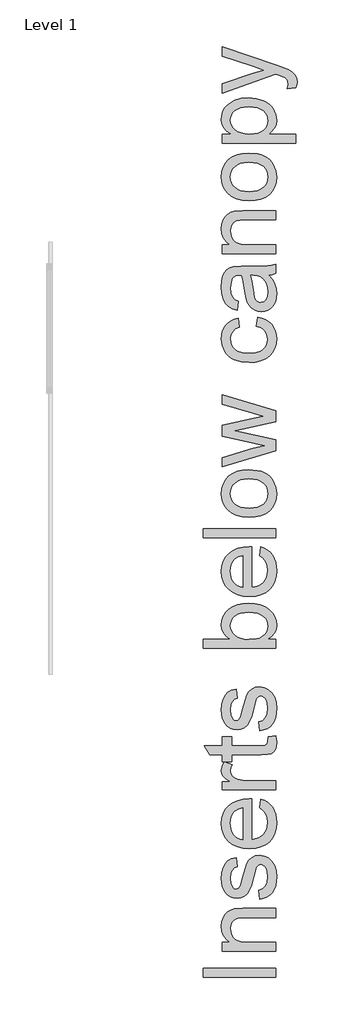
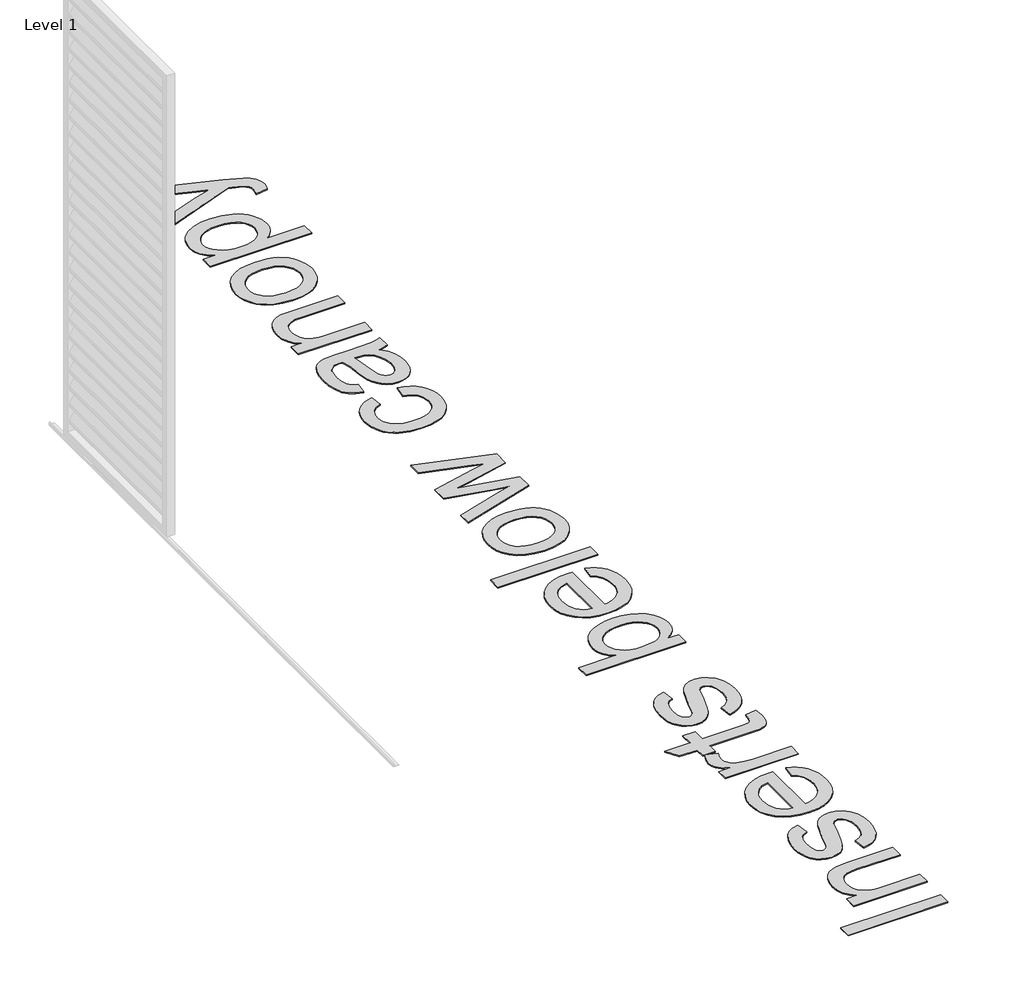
# One storey, part 30 of 80: 1 proxy.
"""IFC4 building model written with IfcOpenShell, lengths in millimetres."""

from ifc_helpers import new_model, si_unit, origin, origin_with_axes, place, context, project, spatial, polyline, outline, extrude, element, save

model = new_model("IFC4")

# Units and contexts
model_context = context("Model", 3, world=origin())
ifc_project = project(units=[si_unit("LENGTHUNIT", "METRE", prefix="MILLI")], contexts=[model_context])

# Site, building, storey
site = spatial("IfcSite", under=ifc_project)
building = spatial("IfcBuilding", under=site)
storey = spatial("IfcBuildingStorey", under=building, Name="Level 1", Elevation=0.0)

# Proxy
placement = place(None, origin())
element("IfcBuildingElementProxy", 1, Name="500mm Arial", ObjectType="500mm Arial", at=placement, inside=storey, context=model_context, shape_type="SweptSolid", body=[
    extrude(outline(polyline([(436600.5945715, -43163.3057532), (436098.3130208, -43163.3057532), (436098.3130208, -43100.5205594), (436600.5945715, -43100.5205594), (436600.5945715, -43163.3057532)])), origin_with_axes(), (0.0, 0.0, 1.0), 5.0),
    extrude(outline(polyline([(436600.5945715, -42982.7983209), (436231.7315577, -42982.7983209), (436231.7315577, -42920.0131271), (436283.235037, -42920.0131271), (436257.2686995, -42898.2007904), (436238.7213156, -42872.0045267), (436227.5928852, -42841.4243358), (436223.8834085, -42806.4602179), (436226.8724497, -42775.512145), (436235.8395733, -42747.169903), (436249.665805, -42723.5334848), (436267.2321702, -42706.7028835), (436288.4926839, -42695.2832133), (436313.4013606, -42687.8795881), (436374.1018898, -42684.5686501), (436600.5945715, -42684.5686501), (436600.5945715, -42747.353844), (436382.5631757, -42747.353844), (436350.0975896, -42749.1625971), (436327.0129944, -42754.5888566), (436310.4736331, -42764.5983125), (436297.6437485, -42780.1566552), (436289.4123889, -42800.098925), (436286.6686023, -42823.2601623), (436288.2091082, -42842.3248803), (436292.8306257, -42860.0330334), (436300.533155, -42876.3846217), (436311.316696, -42891.3796451), (436326.407522, -42903.9067935), (436347.0319063, -42912.8547566), (436373.189849, -42918.2235344), (436404.8813501, -42920.0131271), (436600.5945715, -42920.0131271), (436600.5945715, -42982.7983209)])), origin_with_axes(), (0.0, 0.0, 1.0), 5.0),
    extrude(outline(polyline([(436490.7204823, -42621.7834563), (436482.8723331, -42558.9982625), (436509.7277187, -42549.0961054), (436529.4707191, -42529.9355848), (436541.610825, -42501.3940734), (436545.6575269, -42463.3489437), (436541.9480501, -42425.7636665), (436530.8196198, -42399.3374766), (436514.6941257, -42383.7024918), (436495.9934576, -42378.4908302), (436479.9905908, -42383.7331486), (436467.7891713, -42399.4601039), (436449.8855808, -42464.0847077), (436433.3155626, -42521.3823285), (436419.1674342, -42558.6303805), (436403.7317189, -42582.5580386), (436383.2989397, -42599.8944776), (436359.1720122, -42610.4250997), (436332.6538517, -42613.9353071), (436308.3276548, -42611.1148784), (436285.8715247, -42602.6535926), (436266.1745095, -42589.3178702), (436250.1256575, -42571.8741323), (436240.024231, -42554.5376933), (436231.5476167, -42531.9589358), (436225.7994605, -42505.8546426), (436223.8834085, -42477.9415962), (436226.9644202, -42437.0760379), (436236.2074553, -42401.5447685), (436250.7081373, -42372.9726002), (436269.5620895, -42352.9843452), (436294.164198, -42339.7405933), (436325.9093485, -42331.4019348), (436333.7574977, -42394.1871286), (436313.9991689, -42402.1119199), (436299.1152765, -42417.79289), (436289.7802708, -42441.3833229), (436286.6686023, -42473.0365029), (436289.6423151, -42509.0889384), (436298.5634535, -42533.1238955), (436311.4393233, -42546.6435588), (436326.2772305, -42551.1501132), (436335.9341328, -42549.2800464), (436344.5487029, -42543.669846), (436352.2435679, -42534.0742573), (436358.4055914, -42520.2480256), (436371.7719705, -42466.1693723), (436401.3251575, -42374.0149325), (436415.4579575, -42349.6734072), (436434.802419, -42331.2179938), (436459.4198559, -42319.5837257), (436489.3715816, -42315.7056363), (436520.3349829, -42320.258176), (436549.4589742, -42333.9157951), (436574.4596215, -42356.1573274), (436593.0529906, -42386.4616067), (436604.5952882, -42423.0658652), (436608.4427208, -42464.207335), (436606.5879824, -42497.9988291), (436601.0237672, -42527.513695), (436591.7500752, -42552.7519327), (436578.7669065, -42573.7135423), (436562.1355746, -42590.8353835), (436541.9173933, -42604.5543162), (436518.1123625, -42614.8703405), (436490.7204823, -42621.7834563)])), origin_with_axes(), (0.0, 0.0, 1.0), 5.0),
    extrude(outline(polyline([(436490.7204823, -41986.8191326), (436498.5686315, -41925.2602121), (436523.2243894, -41934.6986845), (436544.9524198, -41947.4404307), (436563.7527225, -41963.4854507), (436579.6252978, -41982.8337443), (436592.2329203, -42005.2860424), (436601.238365, -42030.6430753), (436606.6416318, -42058.9048432), (436608.4427208, -42090.0713459), (436605.3348843, -42129.0285164), (436596.011375, -42163.7397155), (436580.4721928, -42194.2049432), (436558.7173377, -42220.4241996), (436531.3522822, -42241.5084364), (436498.9824988, -42256.5686056), (436461.6079873, -42265.6047071), (436419.2287479, -42268.6167409), (436375.4124694, -42265.5740503), (436336.7925242, -42256.4459783), (436303.368912, -42241.2325249), (436275.1416331, -42219.9336902), (436252.7161598, -42193.7834117), (436236.6979646, -42164.015627), (436227.0870475, -42130.6303359), (436223.8834085, -42093.6275386), (436227.0793833, -42057.8165256), (436236.6673078, -42025.4314137), (436252.647182, -41996.4722029), (436275.0190058, -41970.9388932), (436303.184971, -41950.0960789), (436336.5472695, -41935.2083544), (436375.1059011, -41926.2757197), (436418.8608659, -41923.2981748), (436435.7834377, -41923.6660568), (436435.7834377, -42205.8315471), (436460.8377344, -42202.1948803), (436482.7803626, -42194.9636998), (436501.6113222, -42184.1380057), (436517.3306133, -42169.7177979), (436529.723638, -42152.5001541), (436538.5757985, -42133.282152), (436543.8870948, -42112.0637915), (436545.6575269, -42088.8450726), (436542.3772458, -42055.4291247), (436532.5364024, -42027.2861521), (436515.5218601, -42004.4161547), (436490.7204823, -41986.8191326)]), holes=[polyline([(436372.9982438, -42205.8315471), (436372.9982438, -41986.0833686), (436339.8275506, -41994.5753114), (436316.0991619, -42011.2219716), (436303.2232921, -42028.3438128), (436294.0262422, -42047.8262302), (436288.5080123, -42069.6692236), (436286.6686023, -42093.8727932), (436292.5393858, -42136.1945511), (436299.8778652, -42154.6078114), (436310.1517363, -42171.1893259), (436322.8858183, -42185.1036959), (436337.6049302, -42195.5155228), (436354.3090721, -42202.4248065), (436372.9982438, -42205.8315471)])]), origin_with_axes(), (0.0, 0.0, 1.0), 5.0),
    extrude(outline(polyline([(436548.2327009, -41491.6499671), (436602.4339815, -41483.8018179), (436608.4427208, -41530.7680859), (436605.83689, -41560.9037527), (436598.0193976, -41583.3752112), (436585.9712622, -41599.2554507), (436570.6735026, -41609.6174602), (436544.4005968, -41615.3196312), (436499.4270229, -41617.2203548), (436294.5167515, -41617.2203548), (436294.5167515, -41664.3092502), (436243.2585269, -41664.3092502), (436231.7315577, -41664.3092502), (436231.7315577, -41617.2203548), (436142.0909782, -41617.2203548), (436105.1801514, -41554.435161), (436231.7315577, -41554.435161), (436231.7315577, -41491.6499671), (436294.5167515, -41491.6499671), (436294.5167515, -41554.435161), (436497.5876129, -41554.435161), (436529.9612285, -41551.124223), (436541.426884, -41540.3943315), (436545.6575269, -41518.9958621), (436548.2327009, -41491.6499671)])), origin_with_axes(), (0.0, 0.0, 1.0), 5.0),
    extrude(outline(polyline([(436600.5945715, -41860.5129809), (436231.7315577, -41860.5129809), (436231.7315577, -41805.5759363), (436286.3007203, -41805.5759363), (436254.6628687, -41785.2811129), (436236.0235143, -41766.5804448), (436226.9184349, -41747.8184631), (436223.8834085, -41727.3396987), (436228.7271881, -41696.0697291), (436243.2585269, -41664.3092502), (436299.5444721, -41685.2785239), (436289.8875698, -41707.3514436), (436286.6686023, -41729.4243633), (436289.7649424, -41748.1710167), (436299.0539628, -41764.9249759), (436313.8305563, -41778.4599676), (436333.3896157, -41787.5497186), (436368.4610326, -41795.18327), (436406.7207601, -41797.7277871), (436600.5945715, -41797.7277871), (436600.5945715, -41860.5129809)])), origin_with_axes(), (0.0, 0.0, 1.0), 5.0),
    extrude(outline(polyline([(436490.7204823, -41452.409221), (436482.8723331, -41389.6240271), (436509.7277187, -41379.7218701), (436529.4707191, -41360.5613495), (436541.610825, -41332.019838), (436545.6575269, -41293.9747084), (436541.9480501, -41256.3894312), (436530.8196198, -41229.9632412), (436514.6941257, -41214.3282564), (436495.9934576, -41209.1165948), (436479.9905908, -41214.3589133), (436467.7891713, -41230.0858685), (436449.8855808, -41294.7104724), (436433.3155626, -41352.0080931), (436419.1674342, -41389.2561451), (436403.7317189, -41413.1838032), (436383.2989397, -41430.5202423), (436359.1720122, -41441.0508644), (436332.6538517, -41444.5610717), (436308.3276548, -41441.7406431), (436285.8715247, -41433.2793572), (436266.1745095, -41419.9436349), (436250.1256575, -41402.499897), (436240.024231, -41385.1634579), (436231.5476167, -41362.5847005), (436225.7994605, -41336.4804072), (436223.8834085, -41308.5673609), (436226.9644202, -41267.7018026), (436236.2074553, -41232.1705332), (436250.7081373, -41203.5983649), (436269.5620895, -41183.6101098), (436294.164198, -41170.366358), (436325.9093485, -41162.0276994), (436333.7574977, -41224.8128933), (436313.9991689, -41232.7376846), (436299.1152765, -41248.4186546), (436289.7802708, -41272.0090876), (436286.6686023, -41303.6622676), (436289.6423151, -41339.7147031), (436298.5634535, -41363.7496601), (436311.4393233, -41377.2693235), (436326.2772305, -41381.7758779), (436335.9341328, -41379.9058111), (436344.5487029, -41374.2956107), (436352.2435679, -41364.7000219), (436358.4055914, -41350.8737903), (436371.7719705, -41296.795137), (436401.3251575, -41204.6406972), (436415.4579575, -41180.2991719), (436434.802419, -41161.8437584), (436459.4198559, -41150.2094903), (436489.3715816, -41146.331401), (436520.3349829, -41150.8839407), (436549.4589742, -41164.5415597), (436574.4596215, -41186.783092), (436593.0529906, -41217.0873714), (436604.5952882, -41253.6916299), (436608.4427208, -41294.8330997), (436606.5879824, -41328.6245938), (436601.0237672, -41358.1394597), (436591.7500752, -41383.3776974), (436578.7669065, -41404.3393069), (436562.1355746, -41421.4611481), (436541.9173933, -41435.1800809), (436518.1123625, -41445.4961051), (436490.7204823, -41452.409221)])), origin_with_axes(), (0.0, 0.0, 1.0), 5.0),
    extrude(outline(polyline([(436600.5945715, -40816.7091333), (436600.5945715, -40879.4943271), (436098.3130208, -40879.4943271), (436098.3130208, -40816.7091333), (436284.5839377, -40816.7091333), (436258.0274561, -40796.0617563), (436239.0585408, -40772.7472349), (436227.6771915, -40746.765569), (436223.8834085, -40718.1167586), (436227.3016453, -40685.7737998), (436237.556356, -40655.2089374), (436254.0037468, -40628.1696108), (436276.0000244, -40606.4032594), (436303.330591, -40589.3427319), (436335.7808487, -40576.4208768), (436372.0018968, -40568.2814876), (436410.6448347, -40565.5683579), (436455.2351982, -40568.3772902), (436494.4606159, -40576.8040872), (436528.3210879, -40590.8487488), (436556.8166141, -40610.511275), (436579.4030358, -40634.1132043), (436595.5361941, -40659.9760749), (436605.2160891, -40688.099887), (436608.4427208, -40718.4846406), (436604.2810557, -40748.0761486), (436591.7960605, -40774.3107334), (436570.9877351, -40797.1883949), (436541.8560796, -40816.7091333), (436600.5945715, -40816.7091333)]), holes=[polyline([(436413.5878906, -40816.7091333), (436465.9497613, -40812.4171767), (436485.7847322, -40807.0522309), (436501.3890602, -40799.5413069), (436520.7565144, -40784.3278535), (436534.5904102, -40766.6465251), (436542.8907477, -40746.4973217), (436545.6575269, -40723.8802432), (436543.6188475, -40705.102933), (436537.5028094, -40687.6438667), (436527.3094124, -40671.5030441), (436513.0386567, -40656.6804654), (436494.7288632, -40644.2874407), (436472.418353, -40635.4352802), (436446.1071262, -40630.1239839), (436415.7951826, -40628.3535518), (436384.9084234, -40630.0511739), (436358.3442777, -40635.1440403), (436336.1027454, -40643.6321509), (436318.1838266, -40655.5155057), (436304.3959159, -40669.805422), (436294.5474084, -40685.5132168), (436288.6383038, -40702.6388901), (436286.6686023, -40721.1824419), (436288.7072817, -40739.9597521), (436294.8233199, -40757.4188184), (436305.0167168, -40773.5596409), (436319.2874725, -40788.3822197), (436337.413325, -40800.7752444), (436359.1720122, -40809.6274049), (436384.5635341, -40814.9387012), (436413.5878906, -40816.7091333)])]), origin_with_axes(), (0.0, 0.0, 1.0), 5.0),
    extrude(outline(polyline([(436490.7204823, -40236.6818542), (436498.5686315, -40175.1229337), (436523.2243894, -40184.5614062), (436544.9524198, -40197.3031523), (436563.7527225, -40213.3481723), (436579.6252978, -40232.696466), (436592.2329203, -40255.148764), (436601.238365, -40280.5057969), (436606.6416318, -40308.7675648), (436608.4427208, -40339.9340676), (436605.3348843, -40378.891238), (436596.011375, -40413.6024371), (436580.4721928, -40444.0676648), (436558.7173377, -40470.2869212), (436531.3522822, -40491.371158), (436498.9824988, -40506.4313272), (436461.6079873, -40515.4674287), (436419.2287479, -40518.4794625), (436375.4124694, -40515.4367719), (436336.7925242, -40506.3086999), (436303.368912, -40491.0952465), (436275.1416331, -40469.7964118), (436252.7161598, -40443.6461334), (436236.6979646, -40413.8783486), (436227.0870475, -40380.4930575), (436223.8834085, -40343.4902602), (436227.0793833, -40307.6792472), (436236.6673078, -40275.2941353), (436252.647182, -40246.3349245), (436275.0190058, -40220.8016148), (436303.184971, -40199.9588005), (436336.5472695, -40185.071076), (436375.1059011, -40176.1384413), (436418.8608659, -40173.1608964), (436435.7834377, -40173.5287784), (436435.7834377, -40455.6942687), (436460.8377344, -40452.0576019), (436482.7803626, -40444.8264214), (436501.6113222, -40434.0007273), (436517.3306133, -40419.5805195), (436529.723638, -40402.3628757), (436538.5757985, -40383.1448736), (436543.8870948, -40361.9265131), (436545.6575269, -40338.7077942), (436542.3772458, -40305.2918463), (436532.5364024, -40277.1488737), (436515.5218601, -40254.2788763), (436490.7204823, -40236.6818542)]), holes=[polyline([(436372.9982438, -40455.6942687), (436372.9982438, -40235.9460902), (436339.8275506, -40244.438033), (436316.0991619, -40261.0846933), (436303.2232921, -40278.2065344), (436294.0262422, -40297.6889518), (436288.5080123, -40319.5319452), (436286.6686023, -40343.7355148), (436292.5393858, -40386.0572727), (436299.8778652, -40404.470533), (436310.1517363, -40421.0520475), (436322.8858183, -40434.9664175), (436337.6049302, -40445.3782444), (436354.3090721, -40452.2875281), (436372.9982438, -40455.6942687)])]), origin_with_axes(), (0.0, 0.0, 1.0), 5.0),
    extrude(outline(polyline([(436600.5945715, -40110.3757026), (436098.3130208, -40110.3757026), (436098.3130208, -40047.5905087), (436600.5945715, -40047.5905087), (436600.5945715, -40110.3757026)])), origin_with_axes(), (0.0, 0.0, 1.0), 5.0),
    extrude(outline(polyline([(436416.1630646, -39969.1090164), (436368.3920547, -39965.7137722), (436327.2275923, -39955.5280394), (436292.6696774, -39938.5518182), (436264.7183099, -39914.7851085), (436246.8530405, -39890.8574504), (436234.0921338, -39864.4465888), (436226.4355898, -39835.5525237), (436223.8834085, -39804.1752552), (436226.9912449, -39769.5368661), (436236.3147542, -39738.2170792), (436251.8539364, -39710.2158944), (436273.6087915, -39685.5333118), (436300.8435554, -39665.3879405), (436332.8224643, -39650.9983895), (436369.545518, -39642.3646589), (436411.0127167, -39639.4867487), (436474.441704, -39644.575783), (436500.4770194, -39650.9370758), (436522.7262159, -39659.8428858), (436541.944218, -39671.1820819), (436558.8859503, -39684.8435331), (436573.5514128, -39700.8272393), (436585.9406054, -39719.1332007), (436602.8171919, -39759.8608032), (436608.4427208, -39804.1752552), (436605.3463806, -39839.3194821), (436596.0573603, -39870.9305089), (436580.5756596, -39899.0083358), (436558.9012787, -39923.5529627), (436531.4020996, -39943.4837362), (436498.4460042, -39957.720003), (436460.0329925, -39966.2617631), (436416.1630646, -39969.1090164)]), holes=[polyline([(436416.0404373, -39906.3238226), (436446.4941687, -39904.5074052), (436472.8628771, -39899.0581532), (436495.1465626, -39889.9760664), (436513.345225, -39877.261145), (436527.4818571, -39861.7947727), (436537.5794514, -39844.4583337), (436543.638008, -39825.2518279), (436545.6575269, -39804.1752552), (436543.6265117, -39783.2059815), (436537.5334662, -39764.0761178), (436527.3783903, -39746.785664), (436513.161284, -39731.3346202), (436494.7825127, -39718.6196987), (436472.1424415, -39709.537612), (436445.2410706, -39704.0883599), (436414.0784, -39702.2719426), (436384.5903588, -39704.0998562), (436358.9114291, -39709.5835972), (436337.0416109, -39718.7231655), (436318.9809042, -39731.5185612), (436304.8442721, -39747.0270866), (436294.7466778, -39764.306044), (436288.6881212, -39783.3554336), (436286.6686023, -39804.1752552), (436288.680457, -39825.2518279), (436294.716021, -39844.4583337), (436304.7752943, -39861.7947727), (436318.8582769, -39877.261145), (436337.0032899, -39889.9760664), (436359.2486543, -39899.0581532), (436385.5943701, -39904.5074052), (436416.0404373, -39906.3238226)])]), origin_with_axes(), (0.0, 0.0, 1.0), 5.0),
    extrude(outline(polyline([(436600.5945715, -39507.6623671), (436231.7315577, -39619.8663757), (436231.7315577, -39554.6286352), (436446.9425249, -39490.98505), (436523.8298619, -39471.9778136), (436449.7629535, -39456.4041425), (436231.7315577, -39405.7590545), (436231.7315577, -39330.9563821), (436449.1498168, -39280.5565488), (436516.2269673, -39266.6996603), (436445.4709969, -39246.8340325), (436231.7315577, -39183.0678201), (436231.7315577, -39117.5848249), (436600.5945715, -39230.6472248), (436600.5945715, -39306.5535431), (436384.2799584, -39354.7460845), (436316.8349259, -39368.7256003), (436600.5945715, -39430.8976575), (436600.5945715, -39507.6623671)])), origin_with_axes(), (0.0, 0.0, 1.0), 5.0),
    extrude(outline(polyline([(436467.1760346, -38642.7717965), (436475.0241838, -38579.9866026), (436504.6501808, -38586.8154122), (436530.865605, -38597.4916542), (436553.6704566, -38612.0153288), (436573.0647356, -38630.386436), (436588.5426041, -38651.8308906), (436599.5982245, -38675.5746077), (436606.2315967, -38701.6175873), (436608.4427208, -38729.9598293), (436605.3578769, -38765.1730341), (436596.1033455, -38796.7457399), (436580.6791264, -38824.6779468), (436559.0852197, -38848.9696548), (436531.7278284, -38868.632181), (436499.0131556, -38882.6768426), (436460.9412012, -38891.1036395), (436417.5119653, -38893.9125718), (436361.6398872, -38889.1147775), (436313.2174196, -38874.7213944), (436292.2673064, -38863.8688756), (436274.1146292, -38850.5024964), (436258.759388, -38834.622257), (436246.2015828, -38816.2281572), (436229.4629521, -38775.2246431), (436223.8834085, -38730.8182206), (436225.7994605, -38702.9626558), (436231.5476167, -38677.7665713), (436241.127877, -38655.229967), (436254.5402414, -38635.3528429), (436271.4781416, -38618.4724243), (436291.6350092, -38604.9259362), (436315.0108444, -38594.7133787), (436341.6056469, -38587.8347519), (436349.4537962, -38650.6199457), (436322.0619159, -38662.0089591), (436302.4262144, -38679.743937), (436290.6080053, -38702.8438606), (436286.6686023, -38730.3277113), (436288.607647, -38751.6610349), (436294.424781, -38770.9020297), (436304.1200045, -38788.0506956), (436317.6933172, -38803.1070327), (436335.4589519, -38815.3659338), (436357.731141, -38824.1222917), (436384.5098846, -38829.3761064), (436415.7951826, -38831.127378), (436447.5518294, -38829.4144275), (436474.6409734, -38824.2755758), (436497.0626146, -38815.7108231), (436514.816753, -38803.7201694), (436528.3095916, -38788.9627364), (436537.9473334, -38772.0976462), (436543.7299785, -38753.1248987), (436545.6575269, -38732.044494), (436540.8444041, -38699.5329226), (436526.4050358, -38672.8768064), (436515.4835391, -38662.0970975), (436501.97154, -38653.4863596), (436467.1760346, -38642.7717965)])), origin_with_axes(), (0.0, 0.0, 1.0), 5.0),
    extrude(outline(polyline([(436553.5056761, -38289.6050811), (436579.226759, -38319.6027921), (436596.0573603, -38350.4895513), (436605.3463806, -38382.9704658), (436608.4427208, -38417.7506428), (436606.5803182, -38445.7058423), (436600.9931104, -38470.2198123), (436591.6810974, -38491.2925529), (436578.6442791, -38508.9240639), (436562.7103902, -38522.8460981), (436544.7071651, -38532.7904083), (436524.6346037, -38538.7569944), (436502.4927061, -38540.7458565), (436476.465055, -38537.7414868), (436452.8286368, -38528.728378), (436432.5951271, -38514.8255042), (436416.7762013, -38497.15184), (436404.8200364, -38476.3818357), (436396.1748095, -38453.1899416), (436386.732505, -38398.8660337), (436376.7996911, -38334.6706255), (436365.1500946, -38289.9729631), (436351.1705788, -38289.6050811), (436323.1502335, -38293.9276945), (436304.8174474, -38306.8955349), (436296.8773277, -38319.9706741), (436291.2058136, -38335.8968988), (436286.6686023, -38376.3026046), (436289.6883004, -38413.7039408), (436298.7473945, -38439.8235625), (436315.5013537, -38457.6351824), (436341.6056469, -38470.1125134), (436333.7574977, -38532.8977072), (436299.4218448, -38521.9992031), (436272.4438318, -38505.7357533), (436251.8117833, -38482.5898444), (436236.5140236, -38451.0439633), (436227.0410623, -38412.4623391), (436223.8834085, -38368.2092007), (436226.6731803, -38325.7648155), (436235.0424957, -38292.1189414), (436247.6271256, -38266.7504121), (436263.062841, -38249.1380616), (436282.1467194, -38237.4578083), (436305.6758387, -38229.8855705), (436360.6128833, -38226.8198873), (436438.7264936, -38226.8198873), (436547.8035052, -38223.6315766), (436574.7661898, -38218.9104244), (436600.5945715, -38211.1235888), (436600.5945715, -38273.9087826), (436578.7669065, -38283.9642238), (436553.5056761, -38289.6050811)]), holes=[polyline([(436427.9352885, -38289.6050811), (436438.3892685, -38331.7888832), (436447.1877795, -38390.8952571), (436457.3658481, -38444.9125967), (436464.3249491, -38458.9687546), (436473.9205379, -38469.3767494), (436485.4168502, -38475.8146843), (436498.0781222, -38477.9606626), (436516.7481335, -38473.2854956), (436532.0458931, -38459.2599945), (436542.2546185, -38436.1907278), (436545.6575269, -38404.3842636), (436541.9020649, -38370.6617474), (436530.6356788, -38340.8633058), (436514.0350037, -38316.7057214), (436494.2766749, -38299.905777), (436473.9205379, -38292.4561666), (436445.7162516, -38289.9729631), (436427.9352885, -38289.6050811)])]), origin_with_axes(), (0.0, 0.0, 1.0), 5.0),
    extrude(outline(polyline([(436600.5945715, -38140.4902457), (436231.7315577, -38140.4902457), (436231.7315577, -38077.7050519), (436283.235037, -38077.7050519), (436257.2686995, -38055.8927152), (436238.7213156, -38029.6964515), (436227.5928852, -37999.1162607), (436223.8834085, -37964.1521427), (436226.8724497, -37933.2040699), (436235.8395733, -37904.8618278), (436249.665805, -37881.2254096), (436267.2321702, -37864.3948083), (436288.4926839, -37852.9751381), (436313.4013606, -37845.5715129), (436374.1018898, -37842.260575), (436600.5945715, -37842.260575), (436600.5945715, -37905.0457688), (436382.5631757, -37905.0457688), (436350.0975896, -37906.854522), (436327.0129944, -37912.2807814), (436310.4736331, -37922.2902373), (436297.6437485, -37937.84858), (436289.4123889, -37957.7908499), (436286.6686023, -37980.9520871), (436288.2091082, -38000.0168051), (436292.8306257, -38017.7249582), (436300.533155, -38034.0765465), (436311.316696, -38049.0715699), (436326.407522, -38061.5987183), (436347.0319063, -38070.5466814), (436373.189849, -38075.9154593), (436404.8813501, -38077.7050519), (436600.5945715, -38077.7050519), (436600.5945715, -38140.4902457)])), origin_with_axes(), (0.0, 0.0, 1.0), 5.0),
    extrude(outline(polyline([(436416.1630646, -37771.6272319), (436368.3920547, -37768.2319876), (436327.2275923, -37758.0462549), (436292.6696774, -37741.0700337), (436264.7183099, -37717.3033239), (436246.8530405, -37693.3756658), (436234.0921338, -37666.9648043), (436226.4355898, -37638.0707392), (436223.8834085, -37606.6934707), (436226.9912449, -37572.0550816), (436236.3147542, -37540.7352947), (436251.8539364, -37512.7341099), (436273.6087915, -37488.0515273), (436300.8435554, -37467.9061559), (436332.8224643, -37453.516605), (436369.545518, -37444.8828744), (436411.0127167, -37442.0049642), (436474.441704, -37447.0939985), (436500.4770194, -37453.4552913), (436522.7262159, -37462.3611013), (436541.944218, -37473.7002974), (436558.8859503, -37487.3617485), (436573.5514128, -37503.3454548), (436585.9406054, -37521.6514162), (436602.8171919, -37562.3790187), (436608.4427208, -37606.6934707), (436605.3463806, -37641.8376976), (436596.0573603, -37673.4487244), (436580.5756596, -37701.5265513), (436558.9012787, -37726.0711782), (436531.4020996, -37746.0019517), (436498.4460042, -37760.2382185), (436460.0329925, -37768.7799785), (436416.1630646, -37771.6272319)]), holes=[polyline([(436416.0404373, -37708.842038), (436446.4941687, -37707.0256207), (436472.8628771, -37701.5763686), (436495.1465626, -37692.4942819), (436513.345225, -37679.7793604), (436527.4818571, -37664.3129882), (436537.5794514, -37646.9765492), (436543.638008, -37627.7700434), (436545.6575269, -37606.6934707), (436543.6265117, -37585.724197), (436537.5334662, -37566.5943332), (436527.3783903, -37549.3038795), (436513.161284, -37533.8528357), (436494.7825127, -37521.1379142), (436472.1424415, -37512.0558275), (436445.2410706, -37506.6065754), (436414.0784, -37504.7901581), (436384.5903588, -37506.6180717), (436358.9114291, -37512.1018127), (436337.0416109, -37521.241381), (436318.9809042, -37534.0367767), (436304.8442721, -37549.545302), (436294.7466778, -37566.8242595), (436288.6881212, -37585.8736491), (436286.6686023, -37606.6934707), (436288.680457, -37627.7700434), (436294.716021, -37646.9765492), (436304.7752943, -37664.3129882), (436318.8582769, -37679.7793604), (436337.0032899, -37692.4942819), (436359.2486543, -37701.5763686), (436385.5943701, -37707.0256207), (436416.0404373, -37708.842038)])]), origin_with_axes(), (0.0, 0.0, 1.0), 5.0),
    extrude(outline(polyline([(436741.8612577, -37371.3716211), (436231.7315577, -37371.3716211), (436231.7315577, -37308.5864273), (436293.2904782, -37308.5864273), (436262.9248852, -37288.1076629), (436241.2351759, -37265.1763519), (436228.2213503, -37238.4435935), (436223.8834085, -37206.5604873), (436225.4009217, -37184.6638444), (436229.9534614, -37164.1007737), (436237.5410275, -37144.8712752), (436248.1636201, -37126.975349), (436261.5453277, -37110.8038696), (436277.4102388, -37096.7477117), (436316.5896712, -37074.9813604), (436362.8508321, -37061.829579), (436413.342636, -37057.4456519), (436467.0380789, -37062.3967304), (436515.0620076, -37077.249966), (436536.3378497, -37088.2710974), (436554.9772041, -37101.5301777), (436570.9800709, -37117.0272067), (436584.3464501, -37134.7621846), (436602.4186531, -37173.4664361), (436608.4427208, -37214.1633819), (436604.4113472, -37243.0267901), (436592.3172266, -37268.7938581), (436574.0610826, -37290.8514494), (436551.5436388, -37308.5864273), (436741.8612577, -37308.5864273), (436741.8612577, -37371.3716211)]), holes=[polyline([(436419.1061206, -37308.5864273), (436449.3644147, -37306.8888052), (436475.3920658, -37301.7959388), (436497.189074, -37293.3078282), (436514.7554393, -37281.4244733), (436528.2751026, -37267.1192287), (436537.932005, -37251.3654486), (436543.7261464, -37234.1631332), (436545.6575269, -37215.5122825), (436543.6571686, -37196.5931845), (436537.6560935, -37179.0766366), (436527.6543018, -37162.9626388), (436513.6517933, -37148.2511911), (436495.4492988, -37135.99229), (436472.8475487, -37127.2359321), (436445.8465431, -37121.9821173), (436414.446282, -37120.2308458), (436384.4485709, -37121.9399642), (436358.466905, -37127.0673195), (436336.5012842, -37135.6129117), (436318.5517086, -37147.5767407), (436304.6028496, -37161.9164743), (436294.6393789, -37177.5897802), (436288.6612964, -37194.5966582), (436286.6686023, -37212.9371085), (436288.7877559, -37231.2200773), (436295.1452166, -37248.4223927), (436305.7409845, -37264.5440547), (436320.5750595, -37279.5850633), (436339.4481723, -37292.2731601), (436362.1610534, -37301.3360863), (436388.7137028, -37306.773842), (436419.1061206, -37308.5864273)])]), origin_with_axes(), (0.0, 0.0, 1.0), 5.0),
    extrude(outline(polyline([(436741.8612577, -36986.8123088), (436681.4059831, -36994.6604581), (436686.9242131, -36962.7773518), (436685.192102, -36946.0080642), (436679.9957688, -36932.9789102), (436671.7030955, -36922.8314985), (436660.6819641, -36914.7074378), (436614.45146, -36897.5396113), (436599.2456709, -36892.6345181), (436231.7315577, -37026.053055), (436231.7315577, -36959.8342959), (436436.5192017, -36889.0783255), (436518.4342593, -36864.4302318), (436446.0841336, -36839.7821381), (436231.7315577, -36767.0641304), (436231.7315577, -36701.3358806), (436609.4237394, -36829.7266969), (436691.338797, -36863.0813311), (436717.4890755, -36880.1571871), (436735.6072638, -36899.5016487), (436746.1838711, -36921.9731072), (436749.7094069, -36948.429954), (436747.7473696, -36966.6094559), (436741.8612577, -36986.8123088)])), origin_with_axes(), (0.0, 0.0, 1.0), 5.0),
])

save(model, "model.ifc")
